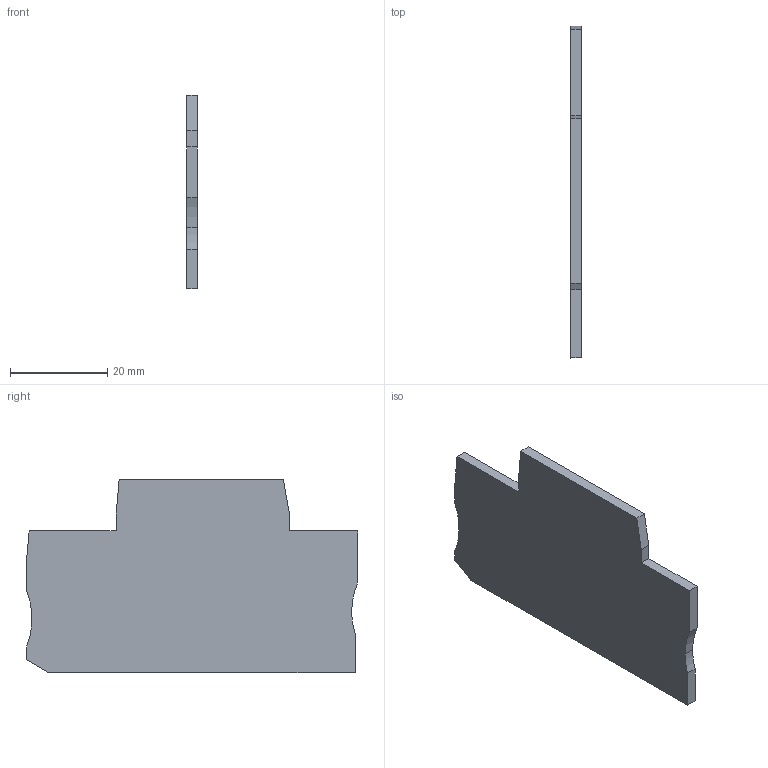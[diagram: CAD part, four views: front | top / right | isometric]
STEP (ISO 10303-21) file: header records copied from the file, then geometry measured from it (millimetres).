
FILE_DESCRIPTION(('TFLEX Exchange Step'),'2;1');
FILE_NAME('14100016_К-КНБ_2,5-2У-С.stp', '2025-06-24T11:23:36+03:00',('MVarava'),('Unknown organisation'),'TFLEX Exchange 2023.0','T-FLEX CAD','Unknown authorisation');
FILE_SCHEMA( ('AUTOMOTIVE_DESIGN { 1 0 10303 214 1 1 1 1 }') );
Length unit declared in the file: millimetre
Products named in the file (1): Nodes
Bounding box: 2.2 x 68.2 x 39.7 mm (x, y, z)
Volume: 5101.8 mm3; surface area: 5120 mm2
Topology: 1 solids, 1 shells, 241 faces, 696 edges, 464 vertices
Faces by surface type: cylinder 166, plane 75
Entity records: 8127 total; most frequent: CARTESIAN_POINT 1523, DIRECTION 1461, ORIENTED_EDGE 1392, EDGE_CURVE 696, AXIS2_PLACEMENT_3D 570, VERTEX_POINT 464, CIRCLE 328, VECTOR 321
